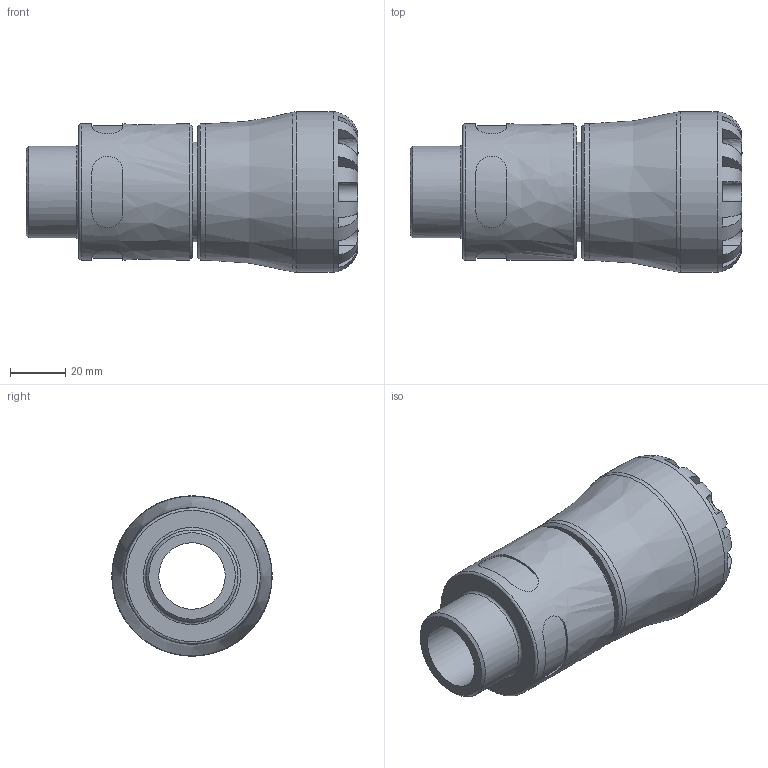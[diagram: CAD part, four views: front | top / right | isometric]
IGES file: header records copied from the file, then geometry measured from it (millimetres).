
Global section: file name: 10N200032010_10N2G0032010; native system: Autodesk Inventor 2019; preprocessor: unknown; author: KIM; date: 20240312.131924; units: millimetre
Bounding box: 120 x 58 x 58 mm (x, y, z)
Volume: 151361.7 mm3; surface area: 34972.9 mm2
Topology: 1 solids, 1 shells, 106 faces, 279 edges, 182 vertices
Faces by surface type: bspline 106
